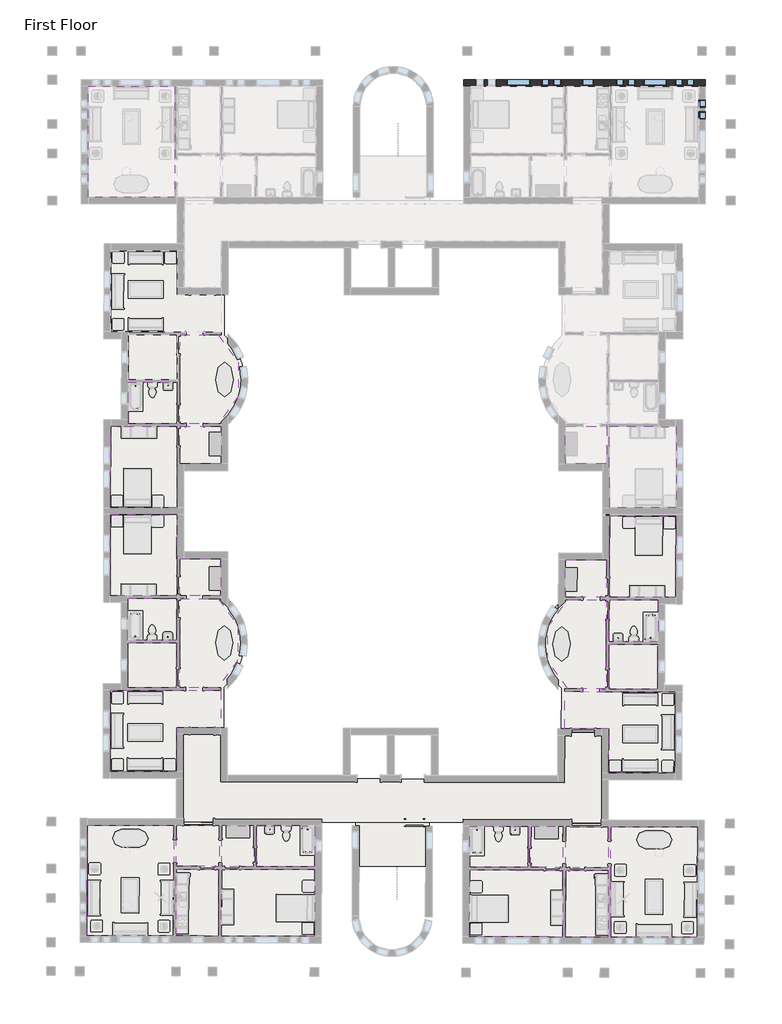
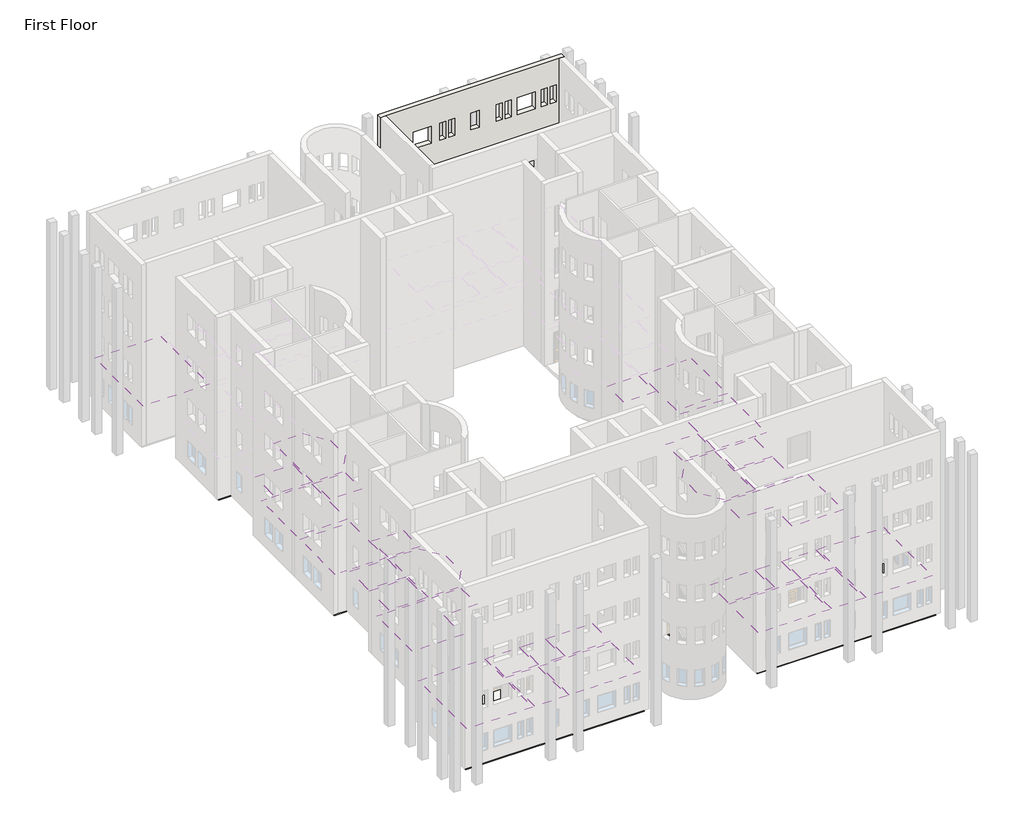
# One storey, part 16 of 22: 31 coverings, 11 windows, 7 slabs, 1 wall.
"""IFC4 building model written with IfcOpenShell, lengths in millimetres."""

from ifc_helpers import new_model, si_unit, point, frame, frame_2d, origin, place, context, project, spatial, polyline, circle_curve, trimmed, segment, composite_curve, outline, extrude, faceted_brep, transform, mapped, element, save
from components import m_fixed_0406_x_1220mm_57fee329, m_fixed_0406_x_1220mm_85c28f40, m_fixed_0610_x_1220mm_2c28ef1d, m_fixed_1220_x_1220mm_e08ff7af

model = new_model("IFC4")

# Units and contexts
model_context = context("Model", 3, world=origin())
ifc_project = project(units=[si_unit("LENGTHUNIT", "METRE", prefix="MILLI")], contexts=[model_context])

# Site, building, storey
site = spatial("IfcSite", under=ifc_project)
building = spatial("IfcBuilding", under=site)
storey = spatial("IfcBuildingStorey", under=building, Name="First Floor", Elevation=0.0)

# Coverings
placement = place(None, origin())
element("IfcCovering", 1, ObjectType="GWB on Metal stud", at=placement, inside=storey, context=model_context, shape_type="SweptSolid", body=[
    extrude(outline(polyline([(-30316.5916203, -3339.8811614), (-34820.8416203, -3339.8811614), (-34820.8416203, 2406.1188386), (-30316.5916203, 2406.1188386), (-30316.5916203, -3339.8811614)])), frame((0.0, 0.0, 2590.0), z_axis=(0.0, 0.0, 1.0), x_axis=(1.0, 0.0, 0.0)), (0.0, 0.0, 1.0), 57.0),
])
element("IfcCovering", 2, ObjectType="GWB on Metal stud", at=placement, inside=storey, context=model_context, shape_type="SweptSolid", body=[
    extrude(outline(polyline([(-14999.3091283, -41787.7339965), (-14989.2451686, -38311.2485634), (-10140.7654843, -38325.2842626), (-10150.829444, -41801.7696957), (-14999.3091283, -41787.7339965)])), frame((0.0, 0.0, 2590.0), z_axis=(0.0, 0.0, 1.0), x_axis=(1.0, 0.0, 0.0)), (0.0, 0.0, 1.0), 57.0),
])
element("IfcCovering", 3, ObjectType="GWB on Metal stud", at=placement, inside=storey, context=model_context, shape_type="SweptSolid", body=[
    extrude(outline(polyline([(-10005.2660521, -38325.6765153), (-7787.0253468, -38332.098025), (-7797.0893064, -41808.5834581), (-10015.3300117, -41802.1619484), (-10005.2660521, -38325.6765153)])), frame((0.0, 0.0, 2590.0), z_axis=(0.0, 0.0, 1.0), x_axis=(1.0, 0.0, 0.0)), (0.0, 0.0, 1.0), 57.0),
])
element("IfcCovering", 4, ObjectType="GWB on Metal stud", at=placement, inside=storey, context=model_context, shape_type="SweptSolid", body=[
    extrude(outline(polyline([(-7644.9560436, -36062.9997871), (-3140.7249168, -36076.0389329), (-3157.3587474, -41822.0148566), (-7661.5898742, -41808.9757108), (-7644.9560436, -36062.9997871)])), frame((0.0, 0.0, 2590.0), z_axis=(0.0, 0.0, 1.0), x_axis=(1.0, 0.0, 0.0)), (0.0, 0.0, 1.0), 57.0),
])
element("IfcCovering", 5, ObjectType="GWB on Metal stud", at=placement, inside=storey, context=model_context, shape_type="SweptSolid", body=[
    extrude(outline(polyline([(-7780.4554758, -36062.6075344), (-7786.6330941, -38196.5985928), (-10004.8737994, -38190.1770831), (-9998.6961811, -36056.1860247), (-7780.4554758, -36062.6075344)])), frame((0.0, 0.0, 2590.0), z_axis=(0.0, 0.0, 1.0), x_axis=(1.0, 0.0, 0.0)), (0.0, 0.0, 1.0), 57.0),
])
element("IfcCovering", 6, ObjectType="GWB on Metal stud", at=placement, inside=storey, context=model_context, shape_type="SweptSolid", body=[
    extrude(outline(polyline([(-11940.8656874, -38184.5726459), (-14988.8529159, -38175.7491311), (-14982.6752977, -36041.7580728), (-11934.6880691, -36050.5815875), (-11940.8656874, -38184.5726459)])), frame((0.0, 0.0, 2590.0), z_axis=(0.0, 0.0, 1.0), x_axis=(1.0, 0.0, 0.0)), (0.0, 0.0, 1.0), 57.0),
])
element("IfcCovering", 7, ObjectType="GWB on Metal stud", at=placement, inside=storey, context=model_context, shape_type="SweptSolid", body=[
    extrude(outline(polyline([(-10134.1956134, -36055.793772), (-10140.3732316, -38189.7848304), (-11805.3662551, -38184.9648986), (-11799.1886369, -36050.9738403), (-10134.1956134, -36055.793772)])), frame((0.0, 0.0, 2590.0), z_axis=(0.0, 0.0, 1.0), x_axis=(1.0, 0.0, 0.0)), (0.0, 0.0, 1.0), 57.0),
])
element("IfcCovering", 8, ObjectType="GWB on Metal stud", at=placement, inside=storey, context=model_context, shape_type="SweptSolid", body=[
    extrude(outline(polyline([(-23042.7754252, -41764.4492391), (-27891.2551095, -41750.4135399), (-27881.1911499, -38273.9281067), (-23032.7114656, -38287.9638059), (-23042.7754252, -41764.4492391)])), frame((0.0, 0.0, 2590.0), z_axis=(0.0, 0.0, 1.0), x_axis=(1.0, 0.0, 0.0)), (0.0, 0.0, 1.0), 57.0),
])
element("IfcCovering", 9, ObjectType="GWB on Metal stud", at=placement, inside=storey, context=model_context, shape_type="SweptSolid", body=[
    extrude(outline(polyline([(-28016.6905821, -38273.535854), (-28026.7545418, -41750.0212871), (-30244.9952471, -41743.5997775), (-30234.9312874, -38267.1143443), (-28016.6905821, -38273.535854)])), frame((0.0, 0.0, 2590.0), z_axis=(0.0, 0.0, 1.0), x_axis=(1.0, 0.0, 0.0)), (0.0, 0.0, 1.0), 57.0),
])
element("IfcCovering", 10, ObjectType="GWB on Metal stud", at=placement, inside=storey, context=model_context, shape_type="SweptSolid", body=[
    extrude(outline(polyline([(-30363.8608487, -35997.2316011), (-30380.4946793, -41743.2075247), (-34884.7258061, -41730.168379), (-34868.0919755, -35984.1924553), (-30363.8608487, -35997.2316011)])), frame((0.0, 0.0, 2590.0), z_axis=(0.0, 0.0, 1.0), x_axis=(1.0, 0.0, 0.0)), (0.0, 0.0, 1.0), 57.0),
])
element("IfcCovering", 11, ObjectType="GWB on Metal stud", at=placement, inside=storey, context=model_context, shape_type="SweptSolid", body=[
    extrude(outline(polyline([(-30228.3614165, -35997.6238538), (-28010.1207112, -36004.0453635), (-28016.2983294, -38138.0364218), (-30234.5390347, -38131.6149121), (-30228.3614165, -35997.6238538)])), frame((0.0, 0.0, 2590.0), z_axis=(0.0, 0.0, 1.0), x_axis=(1.0, 0.0, 0.0)), (0.0, 0.0, 1.0), 57.0),
])
element("IfcCovering", 12, ObjectType="GWB on Metal stud", at=placement, inside=storey, context=model_context, shape_type="SweptSolid", body=[
    extrude(outline(polyline([(-26080.3064415, -38143.640859), (-26074.1288232, -36009.6498006), (-23026.1415946, -36018.4733154), (-23032.3192129, -38152.4643737), (-26080.3064415, -38143.640859)])), frame((0.0, 0.0, 2590.0), z_axis=(0.0, 0.0, 1.0), x_axis=(1.0, 0.0, 0.0)), (0.0, 0.0, 1.0), 57.0),
])
element("IfcCovering", 13, ObjectType="GWB on Metal stud", at=placement, inside=storey, context=model_context, shape_type="SweptSolid", body=[
    extrude(outline(polyline([(-27874.6212789, -36004.4376162), (-26209.6282554, -36009.2575479), (-26215.8058737, -38143.2486063), (-27880.7988972, -38138.4286745), (-27874.6212789, -36004.4376162)])), frame((0.0, 0.0, 2590.0), z_axis=(0.0, 0.0, 1.0), x_axis=(1.0, 0.0, 0.0)), (0.0, 0.0, 1.0), 57.0),
])
element("IfcCovering", 14, ObjectType="Plain", at=placement, inside=storey, context=model_context, shape_type="SweptSolid", body=[
    extrude(outline(polyline([(-7719.603401, -17382.7647995), (-7726.8533934, -17382.7752934), (-7729.9194088, -15264.5275123), (-5002.0722663, -15260.5791445), (-5002.0617724, -15267.829137), (-4262.662547, -15266.7589083), (-4256.5515039, -19488.7544857), (-7716.5478795, -19493.7625882), (-7719.603401, -17382.7647995)])), frame((0.0, 0.0, 2591.0), z_axis=(0.0, 0.0, 1.0), x_axis=(1.0, 0.0, 0.0)), (0.0, 0.0, 1.0), 57.0),
])
element("IfcCovering", 15, ObjectType="Plain", at=placement, inside=storey, context=model_context, shape_type="SweptSolid", body=[
    extrude(outline(polyline([(-10008.6670217, -15267.8258399), (-7865.4192668, -15264.7236389), (-7862.6065515, -17207.9716033), (-10005.8543064, -17211.0738043), (-10008.6670217, -15267.8258399)])), frame((0.0, 0.0, 2591.0), z_axis=(0.0, 0.0, 1.0), x_axis=(1.0, 0.0, 0.0)), (0.0, 0.0, 1.0), 57.0),
])
element("IfcCovering", 16, ObjectType="Plain", at=placement, inside=storey, context=model_context, shape_type="SweptSolid", body=[
    extrude(outline(polyline([(-30194.5798396, -17382.7647995), (-30197.6353611, -19493.7625882), (-33657.6317367, -19488.7544857), (-33651.5206937, -15266.7589083), (-32912.1214682, -15267.829137), (-32912.1109744, -15260.5791445), (-30184.2638319, -15264.5275123), (-30187.3298472, -17382.7752934), (-30194.5798396, -17382.7647995)])), frame((0.0, 0.0, 2591.0), z_axis=(0.0, 0.0, 1.0), x_axis=(1.0, 0.0, 0.0)), (0.0, 0.0, 1.0), 57.0),
])
element("IfcCovering", 17, ObjectType="Plain", at=placement, inside=storey, context=model_context, shape_type="SweptSolid", body=[
    extrude(outline(polyline([(-30184.0677053, -15129.0276542), (-32736.9150311, -15125.3325865), (-32733.7801182, -12959.4848553), (-30180.9327923, -12963.179923), (-30184.0677053, -15129.0276542)])), frame((0.0, 0.0, 2591.0), z_axis=(0.0, 0.0, 1.0), x_axis=(1.0, 0.0, 0.0)), (0.0, 0.0, 1.0), 57.0),
])
element("IfcCovering", 18, ObjectType="Plain", at=placement, inside=storey, context=model_context, shape_type="SweptSolid", body=[
    extrude(outline(composite_curve([segment(trimmed(circle_curve(frame_2d((-29743.0251618, -12811.413604)), 2873.0), [point((-28042.6605552, -10495.6223343))], [point((-28049.3715573, -15132.1174775))], False, "CARTESIAN"), True, "CONTINUOUS"), segment(polyline([(-28049.3715573, -15132.1174775), (-30048.5678472, -15129.2237808), (-30041.8568451, -10492.7286377), (-28042.6605552, -10495.6223343)]), True, "CONTINUOUS")], self_intersect=False)), frame((0.0, 0.0, 2591.0), z_axis=(0.0, 0.0, 1.0), x_axis=(1.0, 0.0, 0.0)), (0.0, 0.0, 1.0), 57.0),
])
element("IfcCovering", 19, ObjectType="Plain", at=placement, inside=storey, context=model_context, shape_type="SweptSolid", body=[
    extrude(outline(polyline([(-27905.5162189, -15267.8258399), (-27908.3289343, -17211.0738043), (-30051.5766892, -17207.9716033), (-30048.7639738, -15264.7236389), (-27905.5162189, -15267.8258399)])), frame((0.0, 0.0, 2591.0), z_axis=(0.0, 0.0, 1.0), x_axis=(1.0, 0.0, 0.0)), (0.0, 0.0, 1.0), 57.0),
])
element("IfcCovering", 20, ObjectType="Plain", at=placement, inside=storey, context=model_context, shape_type="SweptSolid", body=[
    extrude(outline(polyline([(-7726.3152164, -22019.8217838), (-7717.1486774, -19908.8416857), (-4257.1812973, -19923.8659512), (-4275.5143752, -24145.8261474), (-5014.9074043, -24142.6154706), (-5014.9388858, -24149.8654022), (-7742.7631684, -24138.020332), (-7733.565148, -22019.7903023), (-7726.3152164, -22019.8217838)])), frame((0.0, 0.0, 2591.0), z_axis=(0.0, 0.0, 1.0), x_axis=(1.0, 0.0, 0.0)), (0.0, 0.0, 1.0), 57.0),
])
element("IfcCovering", 21, ObjectType="Plain", at=placement, inside=storey, context=model_context, shape_type="SweptSolid", body=[
    extrude(outline(polyline([(-7743.3515464, -24273.5190546), (-5190.525614, -24284.6042269), (-5199.9303266, -26450.4338079), (-7752.756259, -26439.3486356), (-7743.3515464, -24273.5190546)])), frame((0.0, 0.0, 2591.0), z_axis=(0.0, 0.0, 1.0), x_axis=(1.0, 0.0, 0.0)), (0.0, 0.0, 1.0), 57.0),
])
element("IfcCovering", 22, ObjectType="Plain", at=placement, inside=storey, context=model_context, shape_type="SweptSolid", body=[
    extrude(outline(polyline([(-7753.3446371, -26574.8473581), (-5200.5187046, -26585.9325305), (-5210.6585641, -28921.0605153), (-7763.4844965, -28909.975343), (-7753.3446371, -26574.8473581)])), frame((0.0, 0.0, 2591.0), z_axis=(0.0, 0.0, 1.0), x_axis=(1.0, 0.0, 0.0)), (0.0, 0.0, 1.0), 57.0),
])
element("IfcCovering", 23, ObjectType="Plain", at=placement, inside=storey, context=model_context, shape_type="SweptSolid", body=[
    extrude(outline(polyline([(-10042.8013912, -29035.5791103), (-5036.248592, -29057.3191357), (-5036.2800734, -29064.5690674), (-4296.8870443, -29067.7797442), (-4315.2201221, -33289.7399404), (-7775.1875022, -33274.7156749), (-7765.2610655, -30988.7372266), (-10051.2395137, -30978.8107899), (-10042.8013912, -29035.5791103)])), frame((0.0, 0.0, 2591.0), z_axis=(0.0, 0.0, 1.0), x_axis=(1.0, 0.0, 0.0)), (0.0, 0.0, 1.0), 57.0),
])
element("IfcCovering", 24, ObjectType="Plain", at=placement, inside=storey, context=model_context, shape_type="SweptSolid", body=[
    extrude(outline(composite_curve([segment(trimmed(circle_curve(frame_2d((-8191.1013961, -26589.84664)), 2873.0), [point((-9898.1627553, -28900.7058992))], [point((-9878.0298052, -24264.2496108))], False, "CARTESIAN"), True, "CONTINUOUS"), segment(polyline([(-9878.0298052, -24264.2496108), (-7878.850269, -24272.9306765), (-7898.9832191, -28909.3869649), (-9898.1627553, -28900.7058992)]), True, "CONTINUOUS")], self_intersect=False)), frame((0.0, 0.0, 2591.0), z_axis=(0.0, 0.0, 1.0), x_axis=(1.0, 0.0, 0.0)), (0.0, 0.0, 1.0), 57.0),
])
element("IfcCovering", 25, ObjectType="Plain", at=placement, inside=storey, context=model_context, shape_type="SweptSolid", body=[
    extrude(outline(polyline([(-10021.491685, -24128.1253768), (-10013.0535624, -22184.8936972), (-7869.8237684, -22194.2002744), (-7878.2618909, -24137.431954), (-10021.491685, -24128.1253768)])), frame((0.0, 0.0, 2591.0), z_axis=(0.0, 0.0, 1.0), x_axis=(1.0, 0.0, 0.0)), (0.0, 0.0, 1.0), 57.0),
])
element("IfcCovering", 26, ObjectType="Plain", at=placement, inside=storey, context=model_context, shape_type="SweptSolid", body=[
    extrude(outline(polyline([(-30201.1974826, -21954.7600102), (-30193.9474902, -21954.7705041), (-30197.0135056, -24073.0182852), (-32924.8606481, -24069.0699174), (-32924.8501542, -24061.819925), (-33664.2493797, -24060.7496964), (-33658.1383367, -19838.7541191), (-30198.1419611, -19843.7622216), (-30201.1974826, -21954.7600102)])), frame((0.0, 0.0, 2591.0), z_axis=(0.0, 0.0, 1.0), x_axis=(1.0, 0.0, 0.0)), (0.0, 0.0, 1.0), 57.0),
])
element("IfcCovering", 27, ObjectType="Plain", at=placement, inside=storey, context=model_context, shape_type="SweptSolid", body=[
    extrude(outline(polyline([(-30197.2096321, -24208.5181432), (-30200.3445451, -26374.3658745), (-32753.1918709, -26370.6708067), (-32750.056958, -24204.8230755), (-30197.2096321, -24208.5181432)])), frame((0.0, 0.0, 2591.0), z_axis=(0.0, 0.0, 1.0), x_axis=(1.0, 0.0, 0.0)), (0.0, 0.0, 1.0), 57.0),
])
element("IfcCovering", 28, ObjectType="Plain", at=placement, inside=storey, context=model_context, shape_type="SweptSolid", body=[
    extrude(outline(polyline([(-30200.5406716, -26509.8657325), (-30203.9206342, -28845.0132864), (-32756.7679601, -28841.3182186), (-32753.3879975, -26506.1706647), (-30200.5406716, -26509.8657325)])), frame((0.0, 0.0, 2591.0), z_axis=(0.0, 0.0, 1.0), x_axis=(1.0, 0.0, 0.0)), (0.0, 0.0, 1.0), 57.0),
])
element("IfcCovering", 29, ObjectType="Plain", at=placement, inside=storey, context=model_context, shape_type="SweptSolid", body=[
    extrude(outline(polyline([(-27925.3691479, -28983.8114721), (-27928.1818632, -30927.0594365), (-30214.1794686, -30923.750615), (-30217.4882901, -33209.7482204), (-33677.4846656, -33204.7401178), (-33671.3736226, -28982.7445405), (-32931.9743972, -28983.8147691), (-32931.9639033, -28976.5647767), (-27925.3691479, -28983.8114721)])), frame((0.0, 0.0, 2591.0), z_axis=(0.0, 0.0, 1.0), x_axis=(1.0, 0.0, 0.0)), (0.0, 0.0, 1.0), 57.0),
])
element("IfcCovering", 30, ObjectType="Plain", at=placement, inside=storey, context=model_context, shape_type="SweptSolid", body=[
    extrude(outline(composite_curve([segment(polyline([(-28069.2244863, -28848.1031096), (-30068.4207762, -28845.209413), (-30061.7097741, -24208.7142698), (-28062.5134842, -24211.6079665)]), True, "CONTINUOUS"), segment(trimmed(circle_curve(frame_2d((-29762.8780907, -26527.3992362)), 2873.0), [point((-28062.5134842, -24211.6079665))], [point((-28069.2244863, -28848.1031096))], False, "CARTESIAN"), True, "CONTINUOUS")], self_intersect=False)), frame((0.0, 0.0, 2591.0), z_axis=(0.0, 0.0, 1.0), x_axis=(1.0, 0.0, 0.0)), (0.0, 0.0, 1.0), 57.0),
])
element("IfcCovering", 31, ObjectType="Plain", at=placement, inside=storey, context=model_context, shape_type="SweptSolid", body=[
    extrude(outline(polyline([(-27918.2658926, -24076.3166128), (-30061.5136475, -24073.2144117), (-30058.7009321, -22129.9664473), (-27915.4531772, -22133.0686484), (-27918.2658926, -24076.3166128)])), frame((0.0, 0.0, 2591.0), z_axis=(0.0, 0.0, 1.0), x_axis=(1.0, 0.0, 0.0)), (0.0, 0.0, 1.0), 57.0),
])

# Slabs
element("IfcSlab", 32, ObjectType="160mm Concrete With 50mm Metal Deck", at=placement, inside=storey, context=model_context, shape_type="SweptSolid", body=[
    extrude(outline(composite_curve([segment(polyline([(-33822.8703896, -19653.5154871), (-33816.2816951, -15101.5202555), (-32901.882653, -15102.8437841), (-32895.2360615, -10510.8485943), (-33809.6351036, -10509.5250657), (-33803.0464092, -5957.5298341), (-30013.0503793, -5963.015588), (-30016.3592008, -8249.0131933), (-27730.3615954, -8252.3220148), (-27733.662483, -10532.8382541)]), True, "CONTINUOUS"), segment(trimmed(circle_curve(frame_2d((-29743.0251618, -12811.413604)), 3038.0), [point((-27733.662483, -10532.8382541))], [point((-27740.2670452, -15095.7962179))], False, "CARTESIAN"), True, "CONTINUOUS"), segment(polyline([(-27740.2670452, -15095.7962179), (-27743.5679328, -17376.3124572), (-30029.5655382, -17373.0036357), (-30032.8743597, -19659.0012411), (-33822.8703896, -19653.5154871)]), True, "CONTINUOUS")], self_intersect=False)), frame((0.0, 0.0, -210.0), z_axis=(0.0, 0.0, 1.0), x_axis=(1.0, 0.0, 0.0)), (0.0, 0.0, 1.0), 210.0),
])
element("IfcSlab", 33, ObjectType="160mm Concrete With 50mm Metal Deck", at=placement, inside=storey, context=model_context, shape_type="SweptSolid", body=[
    extrude(outline(polyline([(-2992.8370897, -41987.4918161), (-15164.7860878, -41952.2556543), (-15147.1969554, -35876.2811133), (-2975.2479573, -35911.5172751), (-2992.8370897, -41987.4918161)])), frame((0.0, 0.0, -210.0), z_axis=(0.0, 0.0, 1.0), x_axis=(1.0, 0.0, 0.0)), (0.0, 0.0, 1.0), 210.0),
])
element("IfcSlab", 34, ObjectType="160mm Concrete With 50mm Metal Deck", at=placement, inside=storey, context=model_context, shape_type="SweptSolid", body=[
    extrude(outline(composite_curve([segment(polyline([(-4091.4663778, -19759.5839819), (-4111.2324058, -24311.541067), (-5025.6237851, -24307.5704923), (-5045.5635041, -28899.5272002), (-4131.1721248, -28903.4977749), (-4150.9381528, -33455.45486), (-7940.9024218, -33438.9976442), (-7930.975985, -31153.0191959), (-10216.9544333, -31143.0927592), (-10207.0517981, -28862.5956311)]), True, "CONTINUOUS"), segment(trimmed(circle_curve(frame_2d((-8191.1013961, -26589.84664)), 3038.0), [point((-10207.0517981, -28862.5956311))], [point((-10187.2381669, -24299.6759058))], False, "CARTESIAN"), True, "CONTINUOUS"), segment(polyline([(-10187.2381669, -24299.6759058), (-10177.3355318, -22019.1787777), (-7891.3570835, -22029.1052144), (-7881.4306468, -19743.1267661), (-4091.4663778, -19759.5839819)]), True, "CONTINUOUS")], self_intersect=False)), frame((0.0, 0.0, -210.0), z_axis=(0.0, 0.0, 1.0), x_axis=(1.0, 0.0, 0.0)), (0.0, 0.0, 1.0), 210.0),
])
element("IfcSlab", 35, ObjectType="160mm Concrete With 50mm Metal Deck", at=placement, inside=storey, context=model_context, shape_type="SweptSolid", body=[
    extrude(outline(polyline([(-35050.2027656, -41894.6900367), (-35032.6136332, -35818.7154958), (-22860.6646351, -35853.9516576), (-22878.2537675, -41929.9261986), (-35050.2027656, -41894.6900367)])), frame((0.0, 0.0, -210.0), z_axis=(0.0, 0.0, 1.0), x_axis=(1.0, 0.0, 0.0)), (0.0, 0.0, 1.0), 210.0),
])
element("IfcSlab", 36, ObjectType="160mm Concrete With 50mm Metal Deck", at=placement, inside=storey, context=model_context, shape_type="SweptSolid", body=[
    extrude(outline(composite_curve([segment(polyline([(-33822.8993381, -19673.5154662), (-30032.9033083, -19679.0012201), (-30036.2121297, -21964.9988255), (-27750.2145244, -21968.307647), (-27753.515412, -24248.8238862)]), True, "CONTINUOUS"), segment(trimmed(circle_curve(frame_2d((-29762.8780907, -26527.3992362)), 3038.0), [point((-27753.515412, -24248.8238862))], [point((-27760.1199742, -28811.7818501))], False, "CARTESIAN"), True, "CONTINUOUS"), segment(polyline([(-27760.1199742, -28811.7818501), (-27763.4208618, -31092.2980893), (-30049.4184671, -31088.9892679), (-30052.7272886, -33374.9868732), (-33842.7233185, -33369.5011193), (-33836.1346241, -28817.5058876), (-32921.7355819, -28818.8294162), (-32915.0889904, -24226.8342265), (-33829.4880325, -24225.5106979), (-33822.8993381, -19673.5154662)]), True, "CONTINUOUS")], self_intersect=False)), frame((0.0, 0.0, -210.0), z_axis=(0.0, 0.0, 1.0), x_axis=(1.0, 0.0, 0.0)), (0.0, 0.0, 1.0), 210.0),
])
element("IfcSlab", 37, ObjectType="Generic 150mm", at=placement, inside=storey, context=model_context, shape_type="SweptSolid", body=[
    extrude(outline(polyline([(-7964.9191527, -35877.0727616), (-30042.8266437, -35813.1601769), (-30029.2080929, -31108.7798888), (-27763.2175877, -31115.3396278), (-27770.2763995, -33553.7294106), (-10224.3499189, -33604.5225174), (-10217.2911072, -31166.1327345), (-7951.3006019, -31172.6924735), (-7964.9191527, -35877.0727616)])), frame((0.0, 0.0, -150.0), z_axis=(0.0, 0.0, 1.0), x_axis=(1.0, 0.0, 0.0)), (0.0, 0.0, 1.0), 150.0),
])
element("IfcSlab", 38, ObjectType="Generic 150mm", at=placement, inside=storey, context=model_context, shape_type="SweptSolid", body=[
    extrude(outline(polyline([(-17098.9098289, -35860.6311241), (-17105.5274649, -38146.6215455), (-20915.5115006, -38135.5921521), (-20908.8938646, -35849.6017306), (-17098.9098289, -35860.6311241)])), frame((0.0, 0.0, -150.0), z_axis=(0.0, 0.0, 1.0), x_axis=(1.0, 0.0, 0.0)), (0.0, 0.0, 1.0), 150.0),
])

# Wall
element("IfcWall", 39, ObjectType="Exterior - Brick on Mtl. Stud", at=placement, inside=storey, context=model_context, shape_type="Brep", body=[
    faceted_brep([(-15285.3416203, 2406.1188386, 0.0), (-15100.3416203, 2406.1188386, 0.0), (-14935.3416203, 2406.1188386, 0.0), (-10086.8416203, 2406.1188386, 0.0), (-9951.3416203, 2406.1188386, 0.0), (-7733.0916203, 2406.1188386, 0.0), (-7597.5916203, 2406.1188386, 0.0), (-3093.3416203, 2406.1188386, 0.0), (-2928.3416203, 2406.1188386, 0.0), (-2743.3416203, 2406.1188386, 0.0), (-2743.3416203, 2406.1188386, 13107.0), (-3093.3416203, 2406.1188386, 13107.0), (-14935.3416203, 2406.1188386, 13107.0), (-15285.3416203, 2406.1188386, 13107.0), (-8537.1916203, 2406.1188386, 915.0), (-9147.1916203, 2406.1188386, 915.0), (-9147.1916203, 2406.1188386, 2135.0), (-8537.1916203, 2406.1188386, 2135.0), (-11833.3416203, 2406.1188386, 915.0), (-13053.3416203, 2406.1188386, 915.0), (-13053.3416203, 2406.1188386, 2135.0), (-11833.3416203, 2406.1188386, 2135.0), (-4735.4666203, 2406.1188386, 915.0), (-5955.4666203, 2406.1188386, 915.0), (-5955.4666203, 2406.1188386, 2135.0), (-4735.4666203, 2406.1188386, 2135.0), (-14247.3416203, 2406.1188386, 915.0), (-14653.3416203, 2406.1188386, 915.0), (-14653.3416203, 2406.1188386, 2135.0), (-14247.3416203, 2406.1188386, 2135.0), (-13637.3416203, 2406.1188386, 915.0), (-14043.3416203, 2406.1188386, 915.0), (-14043.3416203, 2406.1188386, 2135.0), (-13637.3416203, 2406.1188386, 2135.0), (-11249.3416203, 2406.1188386, 915.0), (-11249.3416203, 2406.1188386, 2135.0), (-10843.3416203, 2406.1188386, 2135.0), (-10843.3416203, 2406.1188386, 915.0), (-10639.3416203, 2406.1188386, 915.0), (-10639.3416203, 2406.1188386, 2135.0), (-10233.3416203, 2406.1188386, 2135.0), (-10233.3416203, 2406.1188386, 915.0), (-6370.3416203, 2406.1188386, 915.0), (-6776.3416203, 2406.1188386, 915.0), (-6776.3416203, 2406.1188386, 2135.0), (-6370.3416203, 2406.1188386, 2135.0), (-6980.3416203, 2406.1188386, 915.0), (-7386.3416203, 2406.1188386, 915.0), (-7386.3416203, 2406.1188386, 2135.0), (-6980.3416203, 2406.1188386, 2135.0), (-4320.5916203, 2406.1188386, 915.0), (-4320.5916203, 2406.1188386, 2135.0), (-3914.5916203, 2406.1188386, 2135.0), (-3914.5916203, 2406.1188386, 915.0), (-3710.5916203, 2406.1188386, 915.0), (-3710.5916203, 2406.1188386, 2135.0), (-3304.5916203, 2406.1188386, 2135.0), (-3304.5916203, 2406.1188386, 915.0), (-4320.5916203, 2406.1188386, 10059.0), (-4320.5916203, 2406.1188386, 11279.0), (-3914.5916203, 2406.1188386, 11279.0), (-3914.5916203, 2406.1188386, 10059.0), (-3710.5916203, 2406.1188386, 10059.0), (-3710.5916203, 2406.1188386, 11279.0), (-3304.5916203, 2406.1188386, 11279.0), (-3304.5916203, 2406.1188386, 10059.0), (-6370.3416203, 2406.1188386, 10059.0), (-6776.3416203, 2406.1188386, 10059.0), (-6776.3416203, 2406.1188386, 11279.0), (-6370.3416203, 2406.1188386, 11279.0), (-6980.3416203, 2406.1188386, 10059.0), (-7386.3416203, 2406.1188386, 10059.0), (-7386.3416203, 2406.1188386, 11279.0), (-6980.3416203, 2406.1188386, 11279.0), (-11249.3416203, 2406.1188386, 10059.0), (-11249.3416203, 2406.1188386, 11279.0), (-10843.3416203, 2406.1188386, 11279.0), (-10843.3416203, 2406.1188386, 10059.0), (-10639.3416203, 2406.1188386, 10059.0), (-10639.3416203, 2406.1188386, 11279.0), (-10233.3416203, 2406.1188386, 11279.0), (-10233.3416203, 2406.1188386, 10059.0), (-13637.3416203, 2406.1188386, 10059.0), (-14043.3416203, 2406.1188386, 10059.0), (-14043.3416203, 2406.1188386, 11279.0), (-13637.3416203, 2406.1188386, 11279.0), (-14247.3416203, 2406.1188386, 10059.0), (-14653.3416203, 2406.1188386, 10059.0), (-14653.3416203, 2406.1188386, 11279.0), (-14247.3416203, 2406.1188386, 11279.0), (-4735.4666203, 2406.1188386, 10059.0), (-5955.4666203, 2406.1188386, 10059.0), (-5955.4666203, 2406.1188386, 11279.0), (-4735.4666203, 2406.1188386, 11279.0), (-11833.3416203, 2406.1188386, 10059.0), (-13053.3416203, 2406.1188386, 10059.0), (-13053.3416203, 2406.1188386, 11279.0), (-11833.3416203, 2406.1188386, 11279.0), (-8537.1916203, 2406.1188386, 10059.0), (-9147.1916203, 2406.1188386, 10059.0), (-9147.1916203, 2406.1188386, 11279.0), (-8537.1916203, 2406.1188386, 11279.0), (-4320.5916203, 2406.1188386, 3963.0), (-4320.5916203, 2406.1188386, 5183.0), (-3914.5916203, 2406.1188386, 5183.0), (-3914.5916203, 2406.1188386, 3963.0), (-3710.5916203, 2406.1188386, 3963.0), (-3710.5916203, 2406.1188386, 5183.0), (-3304.5916203, 2406.1188386, 5183.0), (-3304.5916203, 2406.1188386, 3963.0), (-6370.3416203, 2406.1188386, 3963.0), (-6776.3416203, 2406.1188386, 3963.0), (-6776.3416203, 2406.1188386, 5183.0), (-6370.3416203, 2406.1188386, 5183.0), (-6980.3416203, 2406.1188386, 3963.0), (-7386.3416203, 2406.1188386, 3963.0), (-7386.3416203, 2406.1188386, 5183.0), (-6980.3416203, 2406.1188386, 5183.0), (-11249.3416203, 2406.1188386, 3963.0), (-11249.3416203, 2406.1188386, 5183.0), (-10843.3416203, 2406.1188386, 5183.0), (-10843.3416203, 2406.1188386, 3963.0), (-10639.3416203, 2406.1188386, 3963.0), (-10639.3416203, 2406.1188386, 5183.0), (-10233.3416203, 2406.1188386, 5183.0), (-10233.3416203, 2406.1188386, 3963.0), (-13637.3416203, 2406.1188386, 3963.0), (-14043.3416203, 2406.1188386, 3963.0), (-14043.3416203, 2406.1188386, 5183.0), (-13637.3416203, 2406.1188386, 5183.0), (-14247.3416203, 2406.1188386, 3963.0), (-14653.3416203, 2406.1188386, 3963.0), (-14653.3416203, 2406.1188386, 5183.0), (-14247.3416203, 2406.1188386, 5183.0), (-4735.4666203, 2406.1188386, 3963.0), (-5955.4666203, 2406.1188386, 3963.0), (-5955.4666203, 2406.1188386, 5183.0), (-4735.4666203, 2406.1188386, 5183.0), (-11833.3416203, 2406.1188386, 3963.0), (-13053.3416203, 2406.1188386, 3963.0), (-13053.3416203, 2406.1188386, 5183.0), (-11833.3416203, 2406.1188386, 5183.0), (-8537.1916203, 2406.1188386, 3963.0), (-9147.1916203, 2406.1188386, 3963.0), (-9147.1916203, 2406.1188386, 5183.0), (-8537.1916203, 2406.1188386, 5183.0), (-4320.5916203, 2406.1188386, 7011.0), (-4320.5916203, 2406.1188386, 8231.0), (-3914.5916203, 2406.1188386, 8231.0), (-3914.5916203, 2406.1188386, 7011.0), (-3710.5916203, 2406.1188386, 7011.0), (-3710.5916203, 2406.1188386, 8231.0), (-3304.5916203, 2406.1188386, 8231.0), (-3304.5916203, 2406.1188386, 7011.0), (-6370.3416203, 2406.1188386, 7011.0), (-6776.3416203, 2406.1188386, 7011.0), (-6776.3416203, 2406.1188386, 8231.0), (-6370.3416203, 2406.1188386, 8231.0), (-6980.3416203, 2406.1188386, 7011.0), (-7386.3416203, 2406.1188386, 7011.0), (-7386.3416203, 2406.1188386, 8231.0), (-6980.3416203, 2406.1188386, 8231.0), (-11249.3416203, 2406.1188386, 7011.0), (-11249.3416203, 2406.1188386, 8231.0), (-10843.3416203, 2406.1188386, 8231.0), (-10843.3416203, 2406.1188386, 7011.0), (-10639.3416203, 2406.1188386, 7011.0), (-10639.3416203, 2406.1188386, 8231.0), (-10233.3416203, 2406.1188386, 8231.0), (-10233.3416203, 2406.1188386, 7011.0), (-13637.3416203, 2406.1188386, 7011.0), (-14043.3416203, 2406.1188386, 7011.0), (-14043.3416203, 2406.1188386, 8231.0), (-13637.3416203, 2406.1188386, 8231.0), (-14247.3416203, 2406.1188386, 7011.0), (-14653.3416203, 2406.1188386, 7011.0), (-14653.3416203, 2406.1188386, 8231.0), (-14247.3416203, 2406.1188386, 8231.0), (-4735.4666203, 2406.1188386, 7011.0), (-5955.4666203, 2406.1188386, 7011.0), (-5955.4666203, 2406.1188386, 8231.0), (-4735.4666203, 2406.1188386, 8231.0), (-11833.3416203, 2406.1188386, 7011.0), (-13053.3416203, 2406.1188386, 7011.0), (-13053.3416203, 2406.1188386, 8231.0), (-11833.3416203, 2406.1188386, 8231.0), (-8537.1916203, 2406.1188386, 7011.0), (-9147.1916203, 2406.1188386, 7011.0), (-9147.1916203, 2406.1188386, 8231.0), (-8537.1916203, 2406.1188386, 8231.0), (-15285.3416203, 2756.1188386, 0.0), (-15285.3416203, 2756.1188386, 13107.0), (-2743.3416203, 2756.1188386, 13107.0), (-2743.3416203, 2756.1188386, 0.0), (-2928.3416203, 2756.1188386, 0.0), (-15100.3416203, 2756.1188386, 0.0), (-8537.1916203, 2756.1188386, 915.0), (-8537.1916203, 2756.1188386, 2135.0), (-9147.1916203, 2756.1188386, 2135.0), (-9147.1916203, 2756.1188386, 915.0), (-11833.3416203, 2756.1188386, 915.0), (-11833.3416203, 2756.1188386, 2135.0), (-13053.3416203, 2756.1188386, 2135.0), (-13053.3416203, 2756.1188386, 915.0), (-4735.4666203, 2756.1188386, 915.0), (-4735.4666203, 2756.1188386, 2135.0), (-5955.4666203, 2756.1188386, 2135.0), (-5955.4666203, 2756.1188386, 915.0), (-14247.3416203, 2756.1188386, 915.0), (-14247.3416203, 2756.1188386, 2135.0), (-14653.3416203, 2756.1188386, 2135.0), (-14653.3416203, 2756.1188386, 915.0), (-13637.3416203, 2756.1188386, 915.0), (-13637.3416203, 2756.1188386, 2135.0), (-14043.3416203, 2756.1188386, 2135.0), (-14043.3416203, 2756.1188386, 915.0), (-11249.3416203, 2756.1188386, 915.0), (-10843.3416203, 2756.1188386, 915.0), (-10843.3416203, 2756.1188386, 2135.0), (-11249.3416203, 2756.1188386, 2135.0), (-10639.3416203, 2756.1188386, 915.0), (-10233.3416203, 2756.1188386, 915.0), (-10233.3416203, 2756.1188386, 2135.0), (-10639.3416203, 2756.1188386, 2135.0), (-6370.3416203, 2756.1188386, 915.0), (-6370.3416203, 2756.1188386, 2135.0), (-6776.3416203, 2756.1188386, 2135.0), (-6776.3416203, 2756.1188386, 915.0), (-6980.3416203, 2756.1188386, 915.0), (-6980.3416203, 2756.1188386, 2135.0), (-7386.3416203, 2756.1188386, 2135.0), (-7386.3416203, 2756.1188386, 915.0), (-4320.5916203, 2756.1188386, 915.0), (-3914.5916203, 2756.1188386, 915.0), (-3914.5916203, 2756.1188386, 2135.0), (-4320.5916203, 2756.1188386, 2135.0), (-3710.5916203, 2756.1188386, 915.0), (-3304.5916203, 2756.1188386, 915.0), (-3304.5916203, 2756.1188386, 2135.0), (-3710.5916203, 2756.1188386, 2135.0), (-4320.5916203, 2756.1188386, 10059.0), (-3914.5916203, 2756.1188386, 10059.0), (-3914.5916203, 2756.1188386, 11279.0), (-4320.5916203, 2756.1188386, 11279.0), (-3710.5916203, 2756.1188386, 10059.0), (-3304.5916203, 2756.1188386, 10059.0), (-3304.5916203, 2756.1188386, 11279.0), (-3710.5916203, 2756.1188386, 11279.0), (-6370.3416203, 2756.1188386, 10059.0), (-6370.3416203, 2756.1188386, 11279.0), (-6776.3416203, 2756.1188386, 11279.0), (-6776.3416203, 2756.1188386, 10059.0), (-6980.3416203, 2756.1188386, 10059.0), (-6980.3416203, 2756.1188386, 11279.0), (-7386.3416203, 2756.1188386, 11279.0), (-7386.3416203, 2756.1188386, 10059.0), (-11249.3416203, 2756.1188386, 10059.0), (-10843.3416203, 2756.1188386, 10059.0), (-10843.3416203, 2756.1188386, 11279.0), (-11249.3416203, 2756.1188386, 11279.0), (-10639.3416203, 2756.1188386, 10059.0), (-10233.3416203, 2756.1188386, 10059.0), (-10233.3416203, 2756.1188386, 11279.0), (-10639.3416203, 2756.1188386, 11279.0), (-13637.3416203, 2756.1188386, 10059.0), (-13637.3416203, 2756.1188386, 11279.0), (-14043.3416203, 2756.1188386, 11279.0), (-14043.3416203, 2756.1188386, 10059.0), (-14247.3416203, 2756.1188386, 10059.0), (-14247.3416203, 2756.1188386, 11279.0), (-14653.3416203, 2756.1188386, 11279.0), (-14653.3416203, 2756.1188386, 10059.0), (-4735.4666203, 2756.1188386, 10059.0), (-4735.4666203, 2756.1188386, 11279.0), (-5955.4666203, 2756.1188386, 11279.0), (-5955.4666203, 2756.1188386, 10059.0), (-11833.3416203, 2756.1188386, 10059.0), (-11833.3416203, 2756.1188386, 11279.0), (-13053.3416203, 2756.1188386, 11279.0), (-13053.3416203, 2756.1188386, 10059.0), (-8537.1916203, 2756.1188386, 10059.0), (-8537.1916203, 2756.1188386, 11279.0), (-9147.1916203, 2756.1188386, 11279.0), (-9147.1916203, 2756.1188386, 10059.0), (-4320.5916203, 2756.1188386, 3963.0), (-3914.5916203, 2756.1188386, 3963.0), (-3914.5916203, 2756.1188386, 5183.0), (-4320.5916203, 2756.1188386, 5183.0), (-3710.5916203, 2756.1188386, 3963.0), (-3304.5916203, 2756.1188386, 3963.0), (-3304.5916203, 2756.1188386, 5183.0), (-3710.5916203, 2756.1188386, 5183.0), (-6370.3416203, 2756.1188386, 3963.0), (-6370.3416203, 2756.1188386, 5183.0), (-6776.3416203, 2756.1188386, 5183.0), (-6776.3416203, 2756.1188386, 3963.0), (-6980.3416203, 2756.1188386, 3963.0), (-6980.3416203, 2756.1188386, 5183.0), (-7386.3416203, 2756.1188386, 5183.0), (-7386.3416203, 2756.1188386, 3963.0), (-11249.3416203, 2756.1188386, 3963.0), (-10843.3416203, 2756.1188386, 3963.0), (-10843.3416203, 2756.1188386, 5183.0), (-11249.3416203, 2756.1188386, 5183.0), (-10639.3416203, 2756.1188386, 3963.0), (-10233.3416203, 2756.1188386, 3963.0), (-10233.3416203, 2756.1188386, 5183.0), (-10639.3416203, 2756.1188386, 5183.0), (-13637.3416203, 2756.1188386, 3963.0), (-13637.3416203, 2756.1188386, 5183.0), (-14043.3416203, 2756.1188386, 5183.0), (-14043.3416203, 2756.1188386, 3963.0), (-14247.3416203, 2756.1188386, 3963.0), (-14247.3416203, 2756.1188386, 5183.0), (-14653.3416203, 2756.1188386, 5183.0), (-14653.3416203, 2756.1188386, 3963.0), (-4735.4666203, 2756.1188386, 3963.0), (-4735.4666203, 2756.1188386, 5183.0), (-5955.4666203, 2756.1188386, 5183.0), (-5955.4666203, 2756.1188386, 3963.0), (-11833.3416203, 2756.1188386, 3963.0), (-11833.3416203, 2756.1188386, 5183.0), (-13053.3416203, 2756.1188386, 5183.0), (-13053.3416203, 2756.1188386, 3963.0), (-8537.1916203, 2756.1188386, 3963.0), (-8537.1916203, 2756.1188386, 5183.0), (-9147.1916203, 2756.1188386, 5183.0), (-9147.1916203, 2756.1188386, 3963.0), (-4320.5916203, 2756.1188386, 7011.0), (-3914.5916203, 2756.1188386, 7011.0), (-3914.5916203, 2756.1188386, 8231.0), (-4320.5916203, 2756.1188386, 8231.0), (-3710.5916203, 2756.1188386, 7011.0), (-3304.5916203, 2756.1188386, 7011.0), (-3304.5916203, 2756.1188386, 8231.0), (-3710.5916203, 2756.1188386, 8231.0), (-6370.3416203, 2756.1188386, 7011.0), (-6370.3416203, 2756.1188386, 8231.0), (-6776.3416203, 2756.1188386, 8231.0), (-6776.3416203, 2756.1188386, 7011.0), (-6980.3416203, 2756.1188386, 7011.0), (-6980.3416203, 2756.1188386, 8231.0), (-7386.3416203, 2756.1188386, 8231.0), (-7386.3416203, 2756.1188386, 7011.0), (-11249.3416203, 2756.1188386, 7011.0), (-10843.3416203, 2756.1188386, 7011.0), (-10843.3416203, 2756.1188386, 8231.0), (-11249.3416203, 2756.1188386, 8231.0), (-10639.3416203, 2756.1188386, 7011.0), (-10233.3416203, 2756.1188386, 7011.0), (-10233.3416203, 2756.1188386, 8231.0), (-10639.3416203, 2756.1188386, 8231.0), (-13637.3416203, 2756.1188386, 7011.0), (-13637.3416203, 2756.1188386, 8231.0), (-14043.3416203, 2756.1188386, 8231.0), (-14043.3416203, 2756.1188386, 7011.0), (-14247.3416203, 2756.1188386, 7011.0), (-14247.3416203, 2756.1188386, 8231.0), (-14653.3416203, 2756.1188386, 8231.0), (-14653.3416203, 2756.1188386, 7011.0), (-4735.4666203, 2756.1188386, 7011.0), (-4735.4666203, 2756.1188386, 8231.0), (-5955.4666203, 2756.1188386, 8231.0), (-5955.4666203, 2756.1188386, 7011.0), (-11833.3416203, 2756.1188386, 7011.0), (-11833.3416203, 2756.1188386, 8231.0), (-13053.3416203, 2756.1188386, 8231.0), (-13053.3416203, 2756.1188386, 7011.0), (-8537.1916203, 2756.1188386, 7011.0), (-8537.1916203, 2756.1188386, 8231.0), (-9147.1916203, 2756.1188386, 8231.0), (-9147.1916203, 2756.1188386, 7011.0), (-15285.3416203, 2571.1188386, 0.0), (-2743.3416203, 2571.1188386, 0.0), (-15100.3416203, 2571.1188386, 0.0), (-2928.3416203, 2571.1188386, 0.0)], [[[0, 1, 2, 3, 4, 5, 6, 7, 8, 9, 10, 11, 12, 13], [14, 15, 16, 17], [18, 19, 20, 21], [22, 23, 24, 25], [26, 27, 28, 29], [30, 31, 32, 33], [34, 35, 36, 37], [38, 39, 40, 41], [42, 43, 44, 45], [46, 47, 48, 49], [50, 51, 52, 53], [54, 55, 56, 57], [58, 59, 60, 61], [62, 63, 64, 65], [66, 67, 68, 69], [70, 71, 72, 73], [74, 75, 76, 77], [78, 79, 80, 81], [82, 83, 84, 85], [86, 87, 88, 89], [90, 91, 92, 93], [94, 95, 96, 97], [98, 99, 100, 101], [102, 103, 104, 105], [106, 107, 108, 109], [110, 111, 112, 113], [114, 115, 116, 117], [118, 119, 120, 121], [122, 123, 124, 125], [126, 127, 128, 129], [130, 131, 132, 133], [134, 135, 136, 137], [138, 139, 140, 141], [142, 143, 144, 145], [146, 147, 148, 149], [150, 151, 152, 153], [154, 155, 156, 157], [158, 159, 160, 161], [162, 163, 164, 165], [166, 167, 168, 169], [170, 171, 172, 173], [174, 175, 176, 177], [178, 179, 180, 181], [182, 183, 184, 185], [186, 187, 188, 189]], [[190, 191, 192, 193, 194, 195], [196, 197, 198, 199], [200, 201, 202, 203], [204, 205, 206, 207], [208, 209, 210, 211], [212, 213, 214, 215], [216, 217, 218, 219], [220, 221, 222, 223], [224, 225, 226, 227], [228, 229, 230, 231], [232, 233, 234, 235], [236, 237, 238, 239], [240, 241, 242, 243], [244, 245, 246, 247], [248, 249, 250, 251], [252, 253, 254, 255], [256, 257, 258, 259], [260, 261, 262, 263], [264, 265, 266, 267], [268, 269, 270, 271], [272, 273, 274, 275], [276, 277, 278, 279], [280, 281, 282, 283], [284, 285, 286, 287], [288, 289, 290, 291], [292, 293, 294, 295], [296, 297, 298, 299], [300, 301, 302, 303], [304, 305, 306, 307], [308, 309, 310, 311], [312, 313, 314, 315], [316, 317, 318, 319], [320, 321, 322, 323], [324, 325, 326, 327], [328, 329, 330, 331], [332, 333, 334, 335], [336, 337, 338, 339], [340, 341, 342, 343], [344, 345, 346, 347], [348, 349, 350, 351], [352, 353, 354, 355], [356, 357, 358, 359], [360, 361, 362, 363], [364, 365, 366, 367], [368, 369, 370, 371]], [[13, 12, 11, 10, 192, 191]], [[197, 196, 14, 17]], [[198, 197, 17, 16]], [[199, 198, 16, 15]], [[196, 199, 15, 14]], [[201, 200, 18, 21]], [[202, 201, 21, 20]], [[203, 202, 20, 19]], [[200, 203, 19, 18]], [[205, 204, 22, 25]], [[206, 205, 25, 24]], [[207, 206, 24, 23]], [[204, 207, 23, 22]], [[209, 208, 26, 29]], [[210, 209, 29, 28]], [[211, 210, 28, 27]], [[208, 211, 27, 26]], [[213, 212, 30, 33]], [[214, 213, 33, 32]], [[215, 214, 32, 31]], [[212, 215, 31, 30]], [[35, 34, 216, 219]], [[36, 35, 219, 218]], [[37, 36, 218, 217]], [[34, 37, 217, 216]], [[39, 38, 220, 223]], [[40, 39, 223, 222]], [[41, 40, 222, 221]], [[38, 41, 221, 220]], [[225, 224, 42, 45]], [[226, 225, 45, 44]], [[227, 226, 44, 43]], [[224, 227, 43, 42]], [[229, 228, 46, 49]], [[230, 229, 49, 48]], [[231, 230, 48, 47]], [[228, 231, 47, 46]], [[51, 50, 232, 235]], [[52, 51, 235, 234]], [[53, 52, 234, 233]], [[50, 53, 233, 232]], [[55, 54, 236, 239]], [[56, 55, 239, 238]], [[57, 56, 238, 237]], [[54, 57, 237, 236]], [[59, 58, 240, 243]], [[60, 59, 243, 242]], [[61, 60, 242, 241]], [[58, 61, 241, 240]], [[63, 62, 244, 247]], [[64, 63, 247, 246]], [[65, 64, 246, 245]], [[62, 65, 245, 244]], [[249, 248, 66, 69]], [[250, 249, 69, 68]], [[251, 250, 68, 67]], [[248, 251, 67, 66]], [[253, 252, 70, 73]], [[254, 253, 73, 72]], [[255, 254, 72, 71]], [[252, 255, 71, 70]], [[75, 74, 256, 259]], [[76, 75, 259, 258]], [[77, 76, 258, 257]], [[74, 77, 257, 256]], [[79, 78, 260, 263]], [[80, 79, 263, 262]], [[81, 80, 262, 261]], [[78, 81, 261, 260]], [[265, 264, 82, 85]], [[266, 265, 85, 84]], [[267, 266, 84, 83]], [[264, 267, 83, 82]], [[269, 268, 86, 89]], [[270, 269, 89, 88]], [[271, 270, 88, 87]], [[268, 271, 87, 86]], [[273, 272, 90, 93]], [[274, 273, 93, 92]], [[275, 274, 92, 91]], [[272, 275, 91, 90]], [[277, 276, 94, 97]], [[278, 277, 97, 96]], [[279, 278, 96, 95]], [[276, 279, 95, 94]], [[281, 280, 98, 101]], [[282, 281, 101, 100]], [[283, 282, 100, 99]], [[280, 283, 99, 98]], [[103, 102, 284, 287]], [[104, 103, 287, 286]], [[105, 104, 286, 285]], [[102, 105, 285, 284]], [[107, 106, 288, 291]], [[108, 107, 291, 290]], [[109, 108, 290, 289]], [[106, 109, 289, 288]], [[293, 292, 110, 113]], [[294, 293, 113, 112]], [[295, 294, 112, 111]], [[292, 295, 111, 110]], [[297, 296, 114, 117]], [[298, 297, 117, 116]], [[299, 298, 116, 115]], [[296, 299, 115, 114]], [[119, 118, 300, 303]], [[120, 119, 303, 302]], [[121, 120, 302, 301]], [[118, 121, 301, 300]], [[123, 122, 304, 307]], [[124, 123, 307, 306]], [[125, 124, 306, 305]], [[122, 125, 305, 304]], [[309, 308, 126, 129]], [[310, 309, 129, 128]], [[311, 310, 128, 127]], [[308, 311, 127, 126]], [[313, 312, 130, 133]], [[314, 313, 133, 132]], [[315, 314, 132, 131]], [[312, 315, 131, 130]], [[317, 316, 134, 137]], [[318, 317, 137, 136]], [[319, 318, 136, 135]], [[316, 319, 135, 134]], [[321, 320, 138, 141]], [[322, 321, 141, 140]], [[323, 322, 140, 139]], [[320, 323, 139, 138]], [[325, 324, 142, 145]], [[326, 325, 145, 144]], [[327, 326, 144, 143]], [[324, 327, 143, 142]], [[147, 146, 328, 331]], [[148, 147, 331, 330]], [[149, 148, 330, 329]], [[146, 149, 329, 328]], [[151, 150, 332, 335]], [[152, 151, 335, 334]], [[153, 152, 334, 333]], [[150, 153, 333, 332]], [[337, 336, 154, 157]], [[338, 337, 157, 156]], [[339, 338, 156, 155]], [[336, 339, 155, 154]], [[341, 340, 158, 161]], [[342, 341, 161, 160]], [[343, 342, 160, 159]], [[340, 343, 159, 158]], [[163, 162, 344, 347]], [[164, 163, 347, 346]], [[165, 164, 346, 345]], [[162, 165, 345, 344]], [[167, 166, 348, 351]], [[168, 167, 351, 350]], [[169, 168, 350, 349]], [[166, 169, 349, 348]], [[353, 352, 170, 173]], [[354, 353, 173, 172]], [[355, 354, 172, 171]], [[352, 355, 171, 170]], [[357, 356, 174, 177]], [[358, 357, 177, 176]], [[359, 358, 176, 175]], [[356, 359, 175, 174]], [[361, 360, 178, 181]], [[362, 361, 181, 180]], [[363, 362, 180, 179]], [[360, 363, 179, 178]], [[365, 364, 182, 185]], [[366, 365, 185, 184]], [[367, 366, 184, 183]], [[364, 367, 183, 182]], [[369, 368, 186, 189]], [[370, 369, 189, 188]], [[371, 370, 188, 187]], [[368, 371, 187, 186]], [[0, 13, 191, 190, 372]], [[10, 9, 373, 193, 192]], [[1, 0, 372, 374]], [[372, 190, 195, 374]], [[9, 8, 375, 373]], [[195, 194, 375, 374]], [[194, 193, 373, 375]], [[8, 7, 6, 5, 4, 3, 2, 1, 374, 375]]]),
])

# Windows
m_fixed_0406_x_1220mm_shape = m_fixed_0406_x_1220mm_57fee329(model_context)
element("IfcWindow", 40, ObjectType="M_Fixed : 0406 x 1220mm", at=placement, inside=storey, context=model_context, shape_type="MappedRepresentation", body=[
    mapped(m_fixed_0406_x_1220mm_shape, transform((-7183.3416203, 2594.1188386, 0.0), x_axis=(-1.0, 0.0, 0.0), y_axis=(0.0, -1.0, 0.0), z_axis=(0.0, 0.0, 1.0))),
])
element("IfcWindow", 41, ObjectType="M_Fixed : 0406 x 1220mm", at=placement, inside=storey, context=model_context, shape_type="MappedRepresentation", body=[
    mapped(m_fixed_0406_x_1220mm_shape, transform((-6573.3416203, 2594.1188386, 0.0), x_axis=(-1.0, 0.0, 0.0), y_axis=(0.0, -1.0, 0.0), z_axis=(0.0, 0.0, 1.0))),
])
element("IfcWindow", 42, ObjectType="M_Fixed : 0406 x 1220mm", at=placement, inside=storey, context=model_context, shape_type="MappedRepresentation", body=[
    mapped(m_fixed_0406_x_1220mm_shape, transform((-2905.3416203, 1514.1188386, 0.0), x_axis=(0.0, 1.0, 0.0), y_axis=(-1.0, 0.0, 0.0), z_axis=(0.0, 0.0, 1.0))),
])
element("IfcWindow", 43, ObjectType="M_Fixed : 0406 x 1220mm", at=placement, inside=storey, context=model_context, shape_type="MappedRepresentation", body=[
    mapped(m_fixed_0406_x_1220mm_shape, transform((-2905.3416203, 904.1188386, 0.0), x_axis=(0.0, 1.0, 0.0), y_axis=(-1.0, 0.0, 0.0), z_axis=(0.0, 0.0, 1.0))),
])
m_fixed_0406_x_1220mm_2_shape = m_fixed_0406_x_1220mm_85c28f40(model_context)
element("IfcWindow", 44, ObjectType="M_Fixed : 0406 x 1220mm", at=placement, inside=storey, context=model_context, shape_type="MappedRepresentation", body=[
    mapped(m_fixed_0406_x_1220mm_2_shape, transform((-10436.3416203, 2594.1188386, 0.0), x_axis=(1.0, 0.0, 0.0), y_axis=(0.0, 1.0, 0.0), z_axis=(0.0, 0.0, 1.0))),
])
element("IfcWindow", 45, ObjectType="M_Fixed : 0406 x 1220mm", at=placement, inside=storey, context=model_context, shape_type="MappedRepresentation", body=[
    mapped(m_fixed_0406_x_1220mm_2_shape, transform((-11046.3416203, 2594.1188386, 0.0), x_axis=(1.0, 0.0, 0.0), y_axis=(0.0, 1.0, 0.0), z_axis=(0.0, 0.0, 1.0))),
])
element("IfcWindow", 46, ObjectType="M_Fixed : 0406 x 1220mm", at=placement, inside=storey, context=model_context, shape_type="MappedRepresentation", body=[
    mapped(m_fixed_0406_x_1220mm_2_shape, transform((-3507.5916203, 2594.1188386, 0.0), x_axis=(1.0, 0.0, 0.0), y_axis=(0.0, 1.0, 0.0), z_axis=(0.0, 0.0, 1.0))),
])
element("IfcWindow", 47, ObjectType="M_Fixed : 0406 x 1220mm", at=placement, inside=storey, context=model_context, shape_type="MappedRepresentation", body=[
    mapped(m_fixed_0406_x_1220mm_2_shape, transform((-4117.5916203, 2594.1188386, 0.0), x_axis=(1.0, 0.0, 0.0), y_axis=(0.0, 1.0, 0.0), z_axis=(0.0, 0.0, 1.0))),
])
m_fixed_0610_x_1220mm_shape = m_fixed_0610_x_1220mm_2c28ef1d(model_context)
element("IfcWindow", 48, ObjectType="M_Fixed : 0610 x 1220mm", at=placement, inside=storey, context=model_context, shape_type="MappedRepresentation", body=[
    mapped(m_fixed_0610_x_1220mm_shape, transform((-8842.1916203, 2594.1188386, 0.0), x_axis=(-1.0, 0.0, 0.0), y_axis=(0.0, -1.0, 0.0), z_axis=(0.0, 0.0, 1.0))),
])
m_fixed_1220_x_1220mm_shape = m_fixed_1220_x_1220mm_e08ff7af(model_context)
element("IfcWindow", 49, ObjectType="M_Fixed : 1220 x 1220mm", at=placement, inside=storey, context=model_context, shape_type="MappedRepresentation", body=[
    mapped(m_fixed_1220_x_1220mm_shape, transform((-12443.3416203, 2594.1188386, 0.0), x_axis=(-1.0, 0.0, 0.0), y_axis=(0.0, -1.0, 0.0), z_axis=(0.0, 0.0, 1.0))),
])
element("IfcWindow", 50, ObjectType="M_Fixed : 1220 x 1220mm", at=placement, inside=storey, context=model_context, shape_type="MappedRepresentation", body=[
    mapped(m_fixed_1220_x_1220mm_shape, transform((-5345.4666203, 2594.1188386, 0.0), x_axis=(-1.0, 0.0, 0.0), y_axis=(0.0, -1.0, 0.0), z_axis=(0.0, 0.0, 1.0))),
])

save(model, "model.ifc")
